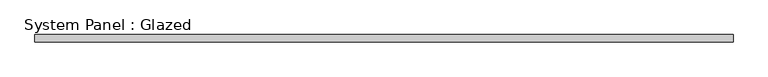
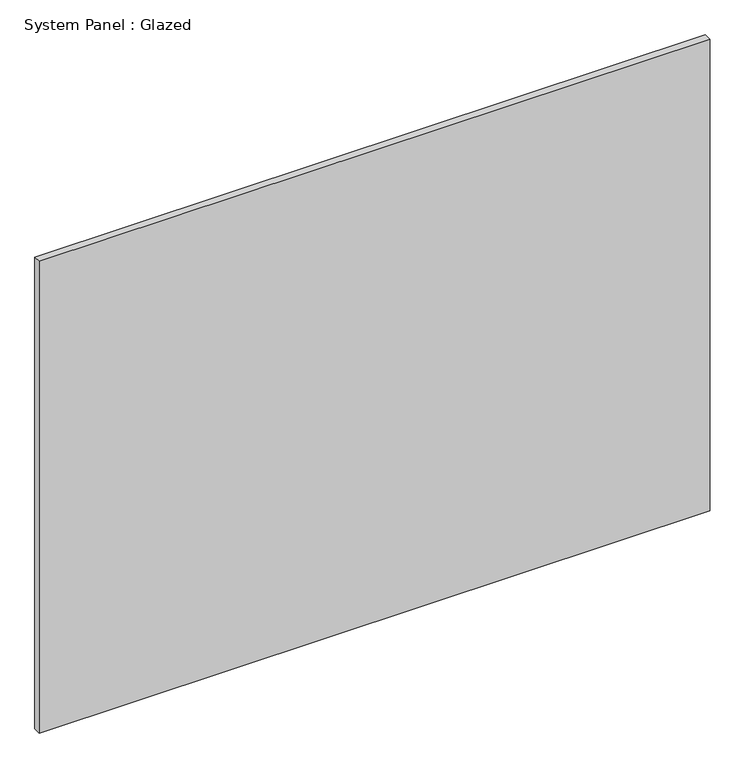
"""IFC4 building model written with IfcOpenShell, lengths in millimetres: plate geometry, System Panel : Glazed."""

from ifc_helpers import new_model, si_unit, origin, origin_with_axes, place, context, project, spatial, polyline, outline, extrude, source, transform, mapped, element, save


def system_panel_glazed_4a5d4c01(model_context):
    return source(origin(), model_context, "Body", "SweptSolid", [
        extrude(outline(polyline([(1187.45, 19.05), (-1187.45, 19.05), (-1187.45, 44.45), (1187.45, 44.45), (1187.45, 19.05)])), origin_with_axes(), (0.0, 0.0, 1.0), 1765.3),
    ])


if __name__ == "__main__":
    model = new_model("IFC4")
    model_context = context("Model", 3, world=origin())
    ifc_project = project(units=[si_unit("LENGTHUNIT", "METRE", prefix="MILLI")], contexts=[model_context])
    site = spatial("IfcSite", under=ifc_project)
    building = spatial("IfcBuilding", under=site)
    placement = place(None, origin())
    system_panel_glazed_shape = system_panel_glazed_4a5d4c01(model_context)
    element("IfcPlate", 1, ObjectType="System Panel : Glazed", at=placement, inside=building, context=model_context, shape_type="MappedRepresentation", body=[
        mapped(system_panel_glazed_shape, transform((0.0, 0.0, 0.0), x_axis=(1.0, 0.0, 0.0), y_axis=(0.0, 1.0, 0.0), z_axis=(0.0, 0.0, 1.0))),
    ])
    save(model, "model.ifc")
